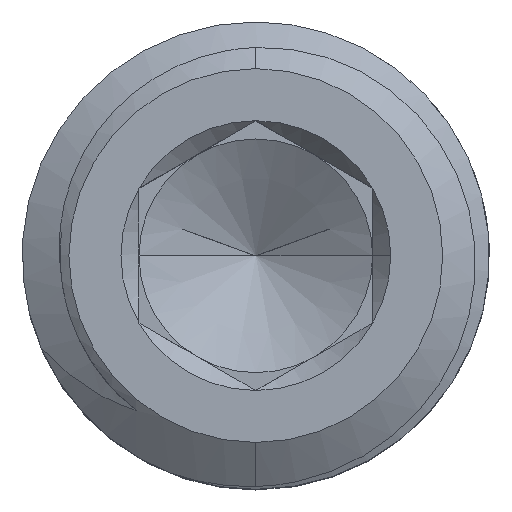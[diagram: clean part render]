
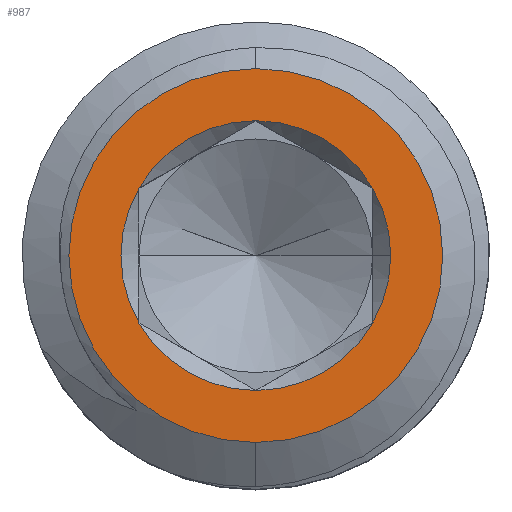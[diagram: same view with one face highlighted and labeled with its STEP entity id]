
A CAD part, top view. The second image highlights one B-rep face of the part: STEP entity #987.
In plain terms, the highlighted planar face has unit normal (0, 0, 1).
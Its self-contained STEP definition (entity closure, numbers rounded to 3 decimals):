
#50 = EDGE_LOOP ( 'NONE', ( #2903, #1833, #2248, #2711, #2474, #637, #2518 ) ) ;
#121 = AXIS2_PLACEMENT_3D ( 'NONE', #1378, #715, #213 ) ;
#213 = DIRECTION ( 'NONE',  ( 0., -1., 0. ) ) ;
#215 = CARTESIAN_POINT ( 'NONE',  ( 0., 0., 4.341 ) ) ;
#222 = AXIS2_PLACEMENT_3D ( 'NONE', #372, #1527, #2294 ) ;
#246 = CARTESIAN_POINT ( 'NONE',  ( 0., 0., 4.341 ) ) ;
#351 = EDGE_CURVE ( 'NONE', #2445, #749, #2920, .T. ) ;
#372 = CARTESIAN_POINT ( 'NONE',  ( 0., 0., 4.341 ) ) ;
#494 = DIRECTION ( 'NONE',  ( 1., 0., 0. ) ) ;
#495 = VERTEX_POINT ( 'NONE', #1801 ) ;
#589 = AXIS2_PLACEMENT_3D ( 'NONE', #215, #2655, #494 ) ;
#634 = AXIS2_PLACEMENT_3D ( 'NONE', #246, #894, #2093 ) ;
#637 = ORIENTED_EDGE ( 'NONE', *, *, #1942, .F. ) ;
#687 = AXIS2_PLACEMENT_3D ( 'NONE', #3016, #2079, #2367 ) ;
#715 = DIRECTION ( 'NONE',  ( 0., 0., 1. ) ) ;
#749 = VERTEX_POINT ( 'NONE', #1539 ) ;
#776 = EDGE_LOOP ( 'NONE', ( #2210, #2314 ) ) ;
#777 = PLANE ( 'NONE',  #1414 ) ;
#798 = DIRECTION ( 'NONE',  ( 0., 0., 1. ) ) ;
#894 = DIRECTION ( 'NONE',  ( 0., 0., 1. ) ) ;
#962 = VERTEX_POINT ( 'NONE', #2256 ) ;
#987 = ADVANCED_FACE ( 'NONE', ( #1279, #1297 ), #777, .F. ) ;
#1008 = DIRECTION ( 'NONE',  ( 0., 1., 0. ) ) ;
#1013 = DIRECTION ( 'NONE',  ( 1., 0., 0. ) ) ;
#1054 = CARTESIAN_POINT ( 'NONE',  ( 0., 0., 4.341 ) ) ;
#1065 = EDGE_CURVE ( 'NONE', #2333, #2721, #2817, .T. ) ;
#1104 = CARTESIAN_POINT ( 'NONE',  ( 0., 2.309, 4.341 ) ) ;
#1123 = CARTESIAN_POINT ( 'NONE',  ( 2.309, 0., 4.341 ) ) ;
#1221 = CIRCLE ( 'NONE', #687, 2.309 ) ;
#1240 = CARTESIAN_POINT ( 'NONE',  ( 0., 0., 4.341 ) ) ;
#1279 = FACE_BOUND ( 'NONE', #50, .T. ) ;
#1286 = EDGE_CURVE ( 'NONE', #749, #2445, #2396, .T. ) ;
#1297 = FACE_OUTER_BOUND ( 'NONE', #776, .T. ) ;
#1374 = DIRECTION ( 'NONE',  ( 1., 0., 0. ) ) ;
#1378 = CARTESIAN_POINT ( 'NONE',  ( 0., 0., 4.341 ) ) ;
#1384 = VERTEX_POINT ( 'NONE', #2398 ) ;
#1414 = AXIS2_PLACEMENT_3D ( 'NONE', #1054, #1508, #1008 ) ;
#1415 = AXIS2_PLACEMENT_3D ( 'NONE', #2325, #2781, #2271 ) ;
#1471 = AXIS2_PLACEMENT_3D ( 'NONE', #2299, #1604, #1374 ) ;
#1493 = CARTESIAN_POINT ( 'NONE',  ( 0., -3.2, 4.341 ) ) ;
#1508 = DIRECTION ( 'NONE',  ( 0., 0., -1. ) ) ;
#1527 = DIRECTION ( 'NONE',  ( 0., 0., 1. ) ) ;
#1539 = CARTESIAN_POINT ( 'NONE',  ( 0., 3.2, 4.341 ) ) ;
#1588 = AXIS2_PLACEMENT_3D ( 'NONE', #1788, #2750, #2564 ) ;
#1604 = DIRECTION ( 'NONE',  ( 0., 0., 1. ) ) ;
#1705 = CARTESIAN_POINT ( 'NONE',  ( 2., -1.155, 4.341 ) ) ;
#1788 = CARTESIAN_POINT ( 'NONE',  ( 0., 0., 4.341 ) ) ;
#1801 = CARTESIAN_POINT ( 'NONE',  ( 0., -2.309, 4.341 ) ) ;
#1833 = ORIENTED_EDGE ( 'NONE', *, *, #2852, .F. ) ;
#1871 = EDGE_CURVE ( 'NONE', #495, #2333, #2037, .T. ) ;
#1926 = CIRCLE ( 'NONE', #222, 2.309 ) ;
#1942 = EDGE_CURVE ( 'NONE', #3001, #495, #1221, .T. ) ;
#1957 = EDGE_CURVE ( 'NONE', #2721, #962, #2851, .T. ) ;
#1968 = CIRCLE ( 'NONE', #1588, 2.309 ) ;
#2037 = CIRCLE ( 'NONE', #2542, 2.309 ) ;
#2079 = DIRECTION ( 'NONE',  ( 0., 0., 1. ) ) ;
#2093 = DIRECTION ( 'NONE',  ( 1., 0., 0. ) ) ;
#2210 = ORIENTED_EDGE ( 'NONE', *, *, #1286, .T. ) ;
#2248 = ORIENTED_EDGE ( 'NONE', *, *, #1957, .F. ) ;
#2256 = CARTESIAN_POINT ( 'NONE',  ( 2., 1.155, 4.341 ) ) ;
#2271 = DIRECTION ( 'NONE',  ( 0., -1., 0. ) ) ;
#2294 = DIRECTION ( 'NONE',  ( 1., 0., 0. ) ) ;
#2299 = CARTESIAN_POINT ( 'NONE',  ( 0., 0., 4.341 ) ) ;
#2314 = ORIENTED_EDGE ( 'NONE', *, *, #351, .T. ) ;
#2325 = CARTESIAN_POINT ( 'NONE',  ( 0., 0., 4.341 ) ) ;
#2333 = VERTEX_POINT ( 'NONE', #1705 ) ;
#2367 = DIRECTION ( 'NONE',  ( 1., 0., 0. ) ) ;
#2396 = CIRCLE ( 'NONE', #121, 3.2 ) ;
#2398 = CARTESIAN_POINT ( 'NONE',  ( -2., 1.155, 4.341 ) ) ;
#2445 = VERTEX_POINT ( 'NONE', #1493 ) ;
#2474 = ORIENTED_EDGE ( 'NONE', *, *, #1871, .F. ) ;
#2491 = CIRCLE ( 'NONE', #634, 2.309 ) ;
#2518 = ORIENTED_EDGE ( 'NONE', *, *, #2729, .F. ) ;
#2542 = AXIS2_PLACEMENT_3D ( 'NONE', #1240, #798, #1013 ) ;
#2564 = DIRECTION ( 'NONE',  ( 1., 0., 0. ) ) ;
#2655 = DIRECTION ( 'NONE',  ( 0., 0., 1. ) ) ;
#2711 = ORIENTED_EDGE ( 'NONE', *, *, #1065, .F. ) ;
#2721 = VERTEX_POINT ( 'NONE', #1123 ) ;
#2729 = EDGE_CURVE ( 'NONE', #1384, #3001, #1926, .T. ) ;
#2750 = DIRECTION ( 'NONE',  ( 0., 0., 1. ) ) ;
#2773 = VERTEX_POINT ( 'NONE', #1104 ) ;
#2781 = DIRECTION ( 'NONE',  ( 0., 0., 1. ) ) ;
#2817 = CIRCLE ( 'NONE', #589, 2.309 ) ;
#2851 = CIRCLE ( 'NONE', #1471, 2.309 ) ;
#2852 = EDGE_CURVE ( 'NONE', #962, #2773, #1968, .T. ) ;
#2878 = CARTESIAN_POINT ( 'NONE',  ( -2., -1.155, 4.341 ) ) ;
#2903 = ORIENTED_EDGE ( 'NONE', *, *, #2951, .F. ) ;
#2920 = CIRCLE ( 'NONE', #1415, 3.2 ) ;
#2951 = EDGE_CURVE ( 'NONE', #2773, #1384, #2491, .T. ) ;
#3001 = VERTEX_POINT ( 'NONE', #2878 ) ;
#3016 = CARTESIAN_POINT ( 'NONE',  ( 0., 0., 4.341 ) ) ;
